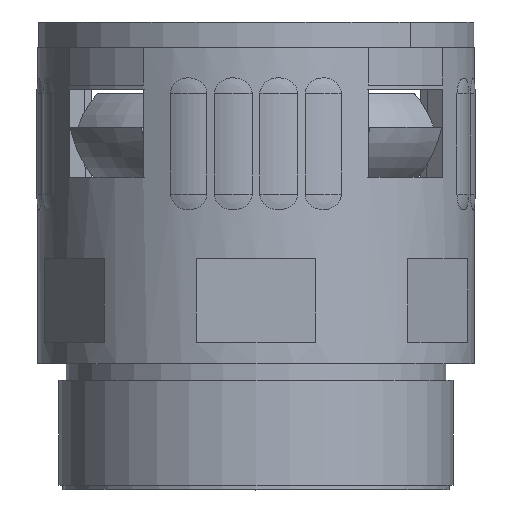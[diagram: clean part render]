
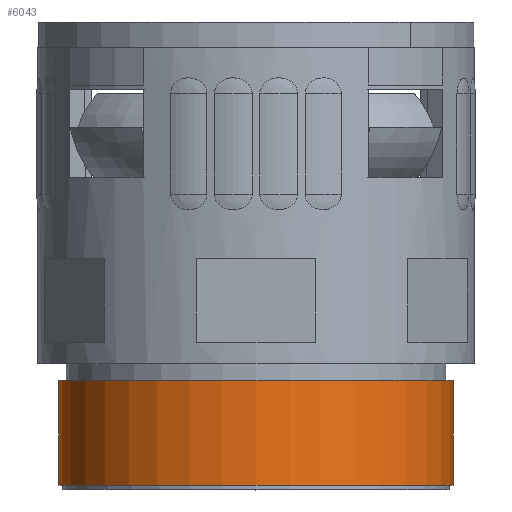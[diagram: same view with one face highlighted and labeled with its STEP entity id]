
A CAD part, top view. The second image highlights one B-rep face of the part: STEP entity #6043.
In plain terms, the highlighted cylindrical face has radius 23.5 mm (diameter 47 mm), a partial arc.
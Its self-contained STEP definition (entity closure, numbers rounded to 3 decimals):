
#381 = EDGE_CURVE ( 'NONE', #4221, #3590, #6535, .T. ) ;
#1105 = DIRECTION ( 'NONE',  ( 1., 0., 0. ) ) ;
#1193 = AXIS2_PLACEMENT_3D ( 'NONE', #5771, #5077, #3311 ) ;
#1685 = CARTESIAN_POINT ( 'NONE',  ( -2971.204, -8753.965, 0. ) ) ;
#1733 = VERTEX_POINT ( 'NONE', #3813 ) ;
#1919 = CARTESIAN_POINT ( 'NONE',  ( -2994.704, -8768.131, 0. ) ) ;
#1946 = CARTESIAN_POINT ( 'NONE',  ( -2994.704, -8753.965, 0. ) ) ;
#2105 = ORIENTED_EDGE ( 'NONE', *, *, #381, .T. ) ;
#2726 = DIRECTION ( 'NONE',  ( 1., 0., 0. ) ) ;
#3011 = CYLINDRICAL_SURFACE ( 'NONE', #6415, 23.5 ) ;
#3207 = DIRECTION ( 'NONE',  ( 0., -1., 0. ) ) ;
#3311 = DIRECTION ( 'NONE',  ( 1., 0., 0. ) ) ;
#3590 = VERTEX_POINT ( 'NONE', #4439 ) ;
#3813 = CARTESIAN_POINT ( 'NONE',  ( -3018.204, -8766.465, 0. ) ) ;
#4178 = EDGE_LOOP ( 'NONE', ( #2105, #7277, #10017, #6674 ) ) ;
#4221 = VERTEX_POINT ( 'NONE', #1685 ) ;
#4439 = CARTESIAN_POINT ( 'NONE',  ( -3018.204, -8753.965, 0. ) ) ;
#5077 = DIRECTION ( 'NONE',  ( 0., -1., 0. ) ) ;
#5244 = DIRECTION ( 'NONE',  ( 0., -1., 0. ) ) ;
#5245 = LINE ( 'NONE', #6606, #7394 ) ;
#5771 = CARTESIAN_POINT ( 'NONE',  ( -2994.704, -8766.465, 0. ) ) ;
#5942 = EDGE_CURVE ( 'NONE', #10157, #1733, #6399, .T. ) ;
#6043 = ADVANCED_FACE ( 'NONE', ( #7032 ), #3011, .T. ) ;
#6055 = DIRECTION ( 'NONE',  ( 0., -1., 0. ) ) ;
#6288 = CARTESIAN_POINT ( 'NONE',  ( -3018.204, -8768.131, 0. ) ) ;
#6399 = CIRCLE ( 'NONE', #1193, 23.5 ) ;
#6415 = AXIS2_PLACEMENT_3D ( 'NONE', #1919, #6055, #2726 ) ;
#6535 = CIRCLE ( 'NONE', #8183, 23.5 ) ;
#6606 = CARTESIAN_POINT ( 'NONE',  ( -2971.204, -8768.131, 0. ) ) ;
#6674 = ORIENTED_EDGE ( 'NONE', *, *, #10167, .F. ) ;
#7032 = FACE_OUTER_BOUND ( 'NONE', #4178, .T. ) ;
#7088 = EDGE_CURVE ( 'NONE', #3590, #1733, #7133, .T. ) ;
#7133 = LINE ( 'NONE', #6288, #10003 ) ;
#7277 = ORIENTED_EDGE ( 'NONE', *, *, #7088, .T. ) ;
#7394 = VECTOR ( 'NONE', #5244, 1000. ) ;
#7572 = DIRECTION ( 'NONE',  ( 0., -1., 0. ) ) ;
#8183 = AXIS2_PLACEMENT_3D ( 'NONE', #1946, #7572, #1105 ) ;
#9248 = CARTESIAN_POINT ( 'NONE',  ( -2971.204, -8766.465, 0. ) ) ;
#10003 = VECTOR ( 'NONE', #3207, 1000. ) ;
#10017 = ORIENTED_EDGE ( 'NONE', *, *, #5942, .F. ) ;
#10157 = VERTEX_POINT ( 'NONE', #9248 ) ;
#10167 = EDGE_CURVE ( 'NONE', #4221, #10157, #5245, .T. ) ;
